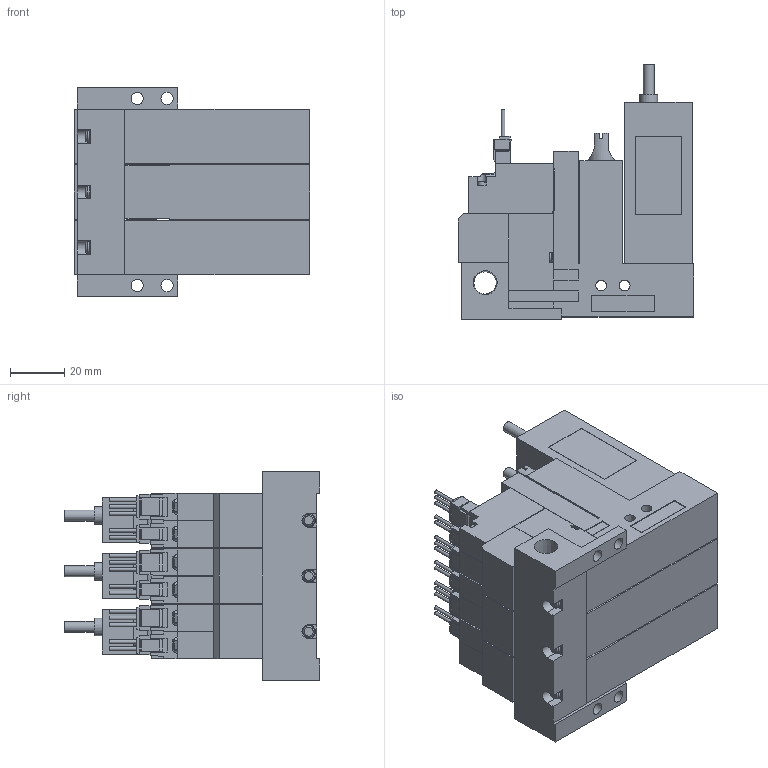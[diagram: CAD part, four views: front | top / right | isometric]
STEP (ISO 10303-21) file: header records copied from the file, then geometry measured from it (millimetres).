
FILE_DESCRIPTION(('STEP AP203'),'1');
FILE_NAME('VG_VGPL5WLR303.stp','2025-02-18T23:19:03',(' '),(' '),'Spatial InterOp 3D',' ',' ');
FILE_SCHEMA(('CONFIG_CONTROL_DESIGN'));
Length unit declared in the file: millimetre
Products named in the file (5): BMC22M※※※※VG_VGPL5WLR303; Solenoid valve W; Pressure sensor VGL; Unit L; Base MR30R
Assembly tree (10 placements, depth 2):
  BMC22M※※※※VG_VGPL5WLR303
    Solenoid valve W  x3
    Pressure sensor VGL  x3
    Unit L  x3
    Base MR30R
Bounding box: 86.6 x 94 x 77 mm (x, y, z)
Volume: 303871.4 mm3; surface area: 82868.6 mm2
Topology: 10 solids, 10 shells, 1101 faces, 2945 edges, 1951 vertices
Faces by surface type: plane 926, cylinder 143, cone 23, torus 9
Full cylindrical faces by diameter (mm): 1.4 x15, 2.5 x9, 3 x12, 3.5 x12, 3.6 x3, 4 x18, 4.134 x3, 4.5 x4, 5.2 x3, 6 x3, 6.5 x3, 6.6 x3, 8.279 x1
Entity records: 12722 total; most frequent: CARTESIAN_POINT 2363, DIRECTION 2025, ORIENTED_EDGE 2014, EDGE_CURVE 1007, LINE 827, VECTOR 827, VERTEX_POINT 702, AXIS2_PLACEMENT_3D 599
